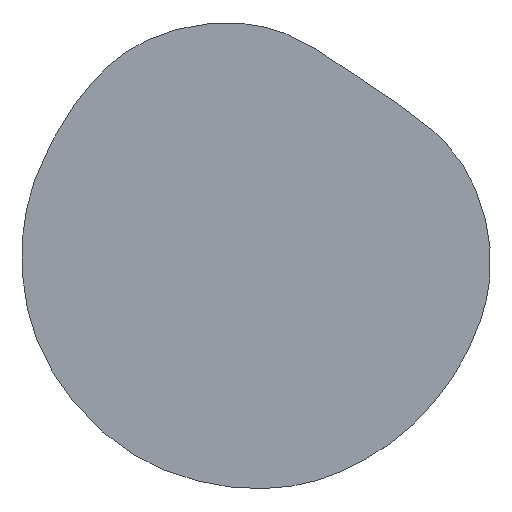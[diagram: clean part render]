
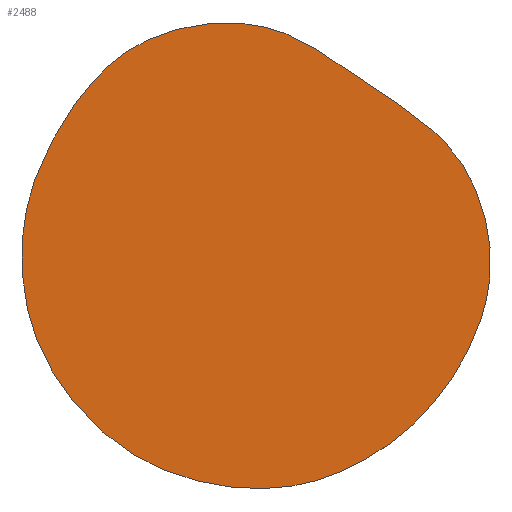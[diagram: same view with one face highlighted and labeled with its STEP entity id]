
A CAD part, top view. The second image highlights one B-rep face of the part: STEP entity #2488.
In plain terms, the highlighted planar face has unit normal (0, 0, 1).
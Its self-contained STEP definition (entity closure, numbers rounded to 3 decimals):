
#2488=ADVANCED_FACE('',(#4588),#30114,.T.);
#4588=FACE_OUTER_BOUND('',#6688,.T.);
#6688=EDGE_LOOP('',(#15902,#15903));
#15902=ORIENTED_EDGE('',*,*,#20525,.T.);
#15903=ORIENTED_EDGE('',*,*,#20528,.T.);
#20525=EDGE_CURVE('',#28034,#28036,#22945,.T.);
#20528=EDGE_CURVE('',#28036,#28034,#22948,.T.);
#22945=B_SPLINE_CURVE_WITH_KNOTS('',3,(#167873,#167874,#167875,#167876,
#167877,#167878,#167879,#167880,#167881,#167882,#167883,#167884,#167885,
#167886,#167887,#167888,#167889,#167890,#167891),.UNSPECIFIED.,.F.,.F.,
(4,3,3,3,3,3,4),(0.,165.903,331.806,497.71,663.613,
829.516,995.419),.UNSPECIFIED.);
#22948=B_SPLINE_CURVE_WITH_KNOTS('',3,(#167916,#167917,#167918,#167919,
#167920,#167921,#167922,#167923,#167924,#167925,#167926,#167927,#167928,
#167929,#167930,#167931,#167932,#167933,#167934,#167935,#167936,#167937),
 .UNSPECIFIED.,.F.,.F.,(4,3,3,3,3,3,3,4),(995.419,1161.323,
1327.226,1493.129,1659.032,1824.936,1990.839,
2156.742),.UNSPECIFIED.);
#28034=VERTEX_POINT('',#167849);
#28036=VERTEX_POINT('',#167851);
#30114=PLANE('',#31008);
#31008=AXIS2_PLACEMENT_3D('',#167803,#31820,$);
#31820=DIRECTION('',(0.,0.,1.));
#167803=CARTESIAN_POINT('',(559.533,-560.924,729.));
#167849=CARTESIAN_POINT('',(-438.772,-52.47,729.));
#167851=CARTESIAN_POINT('',(446.994,-50.583,729.));
#167873=CARTESIAN_POINT('',(-438.772,-52.47,729.));
#167874=CARTESIAN_POINT('',(-433.894,-108.493,729.));
#167875=CARTESIAN_POINT('',(-420.529,-164.577,729.));
#167876=CARTESIAN_POINT('',(-385.167,-224.841,729.));
#167877=CARTESIAN_POINT('',(-349.804,-285.104,729.));
#167878=CARTESIAN_POINT('',(-292.443,-349.546,729.));
#167879=CARTESIAN_POINT('',(-220.84,-390.894,729.));
#167880=CARTESIAN_POINT('',(-149.237,-432.243,729.));
#167881=CARTESIAN_POINT('',(-63.392,-450.497,729.));
#167882=CARTESIAN_POINT('',(9.627,-450.418,729.));
#167883=CARTESIAN_POINT('',(82.647,-450.339,729.));
#167884=CARTESIAN_POINT('',(142.84,-431.927,729.));
#167885=CARTESIAN_POINT('',(199.847,-401.122,729.));
#167886=CARTESIAN_POINT('',(256.854,-370.317,729.));
#167887=CARTESIAN_POINT('',(310.674,-327.119,729.));
#167888=CARTESIAN_POINT('',(356.35,-267.28,729.));
#167889=CARTESIAN_POINT('',(402.026,-207.44,729.));
#167890=CARTESIAN_POINT('',(439.559,-130.959,729.));
#167891=CARTESIAN_POINT('',(446.994,-50.583,729.));
#167916=CARTESIAN_POINT('',(446.994,-50.583,729.));
#167917=CARTESIAN_POINT('',(454.43,29.793,729.));
#167918=CARTESIAN_POINT('',(431.769,114.063,729.));
#167919=CARTESIAN_POINT('',(387.509,175.673,729.));
#167920=CARTESIAN_POINT('',(343.249,237.283,729.));
#167921=CARTESIAN_POINT('',(277.39,276.232,729.));
#167922=CARTESIAN_POINT('',(215.072,318.721,729.));
#167923=CARTESIAN_POINT('',(152.754,361.211,729.));
#167924=CARTESIAN_POINT('',(93.977,407.241,729.));
#167925=CARTESIAN_POINT('',(22.807,424.945,729.));
#167926=CARTESIAN_POINT('',(-48.362,442.649,729.));
#167927=CARTESIAN_POINT('',(-131.925,432.027,729.));
#167928=CARTESIAN_POINT('',(-195.305,404.408,729.));
#167929=CARTESIAN_POINT('',(-258.685,376.79,729.));
#167930=CARTESIAN_POINT('',(-301.883,332.176,729.));
#167931=CARTESIAN_POINT('',(-338.707,281.189,729.));
#167932=CARTESIAN_POINT('',(-375.532,230.201,729.));
#167933=CARTESIAN_POINT('',(-405.982,172.841,729.));
#167934=CARTESIAN_POINT('',(-423.012,116.179,729.));
#167935=CARTESIAN_POINT('',(-440.042,59.517,729.));
#167936=CARTESIAN_POINT('',(-443.65,3.554,729.));
#167937=CARTESIAN_POINT('',(-438.772,-52.47,729.));
